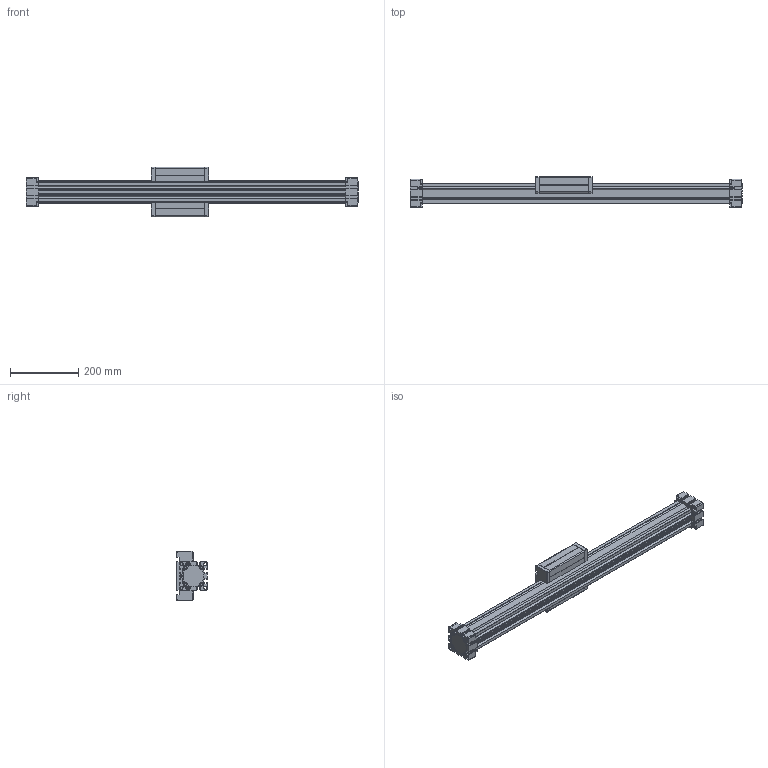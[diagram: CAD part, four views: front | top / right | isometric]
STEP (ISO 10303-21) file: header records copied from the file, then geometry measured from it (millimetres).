
FILE_DESCRIPTION (( 'STEP AP214' ), '1' );
FILE_NAME ('ELR-60.STEP', '2016-01-15T07:05:51', ( 'admin' ), ( '' ), 'SwSTEP 2.0', 'SolidWorks 2015', '' );
FILE_SCHEMA (( 'AUTOMOTIVE_DESIGN' ));
Length unit declared in the file: millimetre
Products named in the file (5): Kopie von Bahr-ELR-ELR-60  0  0 0  0 0 0 0  1245_EL60 Carriage^ELR60 S0_A; Kopie von Bahr-ELR-ELR-60  0  0 0  0 0 0 0  1245_EL60 Extrusion^ELR60 S0_0; Kopie von Bahr-ELR-ELR-60  0  0 0  0 0 0 0  1245_ELR End Block 60 (B)^ELR60 S0_ELR-60 End Block 0-0; Kopie von Bahr-ELR-ELR-60  0  0 0  0 0 0 0  1245_ELR End Block 60 (A)^ELR60 S0_ELR-60 End Block 0-0; ELR-60
Assembly tree (4 placements, depth 2):
  ELR-60
    Kopie von Bahr-ELR-ELR-60  0  0 0  0 0 0 0  1245_ELR End Block 60 (A)^ELR60 S0_ELR-60 End Block 0-0
    Kopie von Bahr-ELR-ELR-60  0  0 0  0 0 0 0  1245_ELR End Block 60 (B)^ELR60 S0_ELR-60 End Block 0-0
    Kopie von Bahr-ELR-ELR-60  0  0 0  0 0 0 0  1245_EL60 Extrusion^ELR60 S0_0
    Kopie von Bahr-ELR-ELR-60  0  0 0  0 0 0 0  1245_EL60 Carriage^ELR60 S0_A
Bounding box: 972 x 90 x 144 mm (x, y, z)
Volume: 4069645 mm3; surface area: 564746.2 mm2
Topology: 17 solids, 17 shells, 956 faces, 2671 edges, 1764 vertices
Faces by surface type: plane 711, cylinder 205, cone 32, torus 8
Entity records: 30828 total; most frequent: CARTESIAN_POINT 5410, ORIENTED_EDGE 5342, DIRECTION 5091, EDGE_CURVE 2671, LINE 2169, VECTOR 2169, VERTEX_POINT 1764, AXIS2_PLACEMENT_3D 1461
